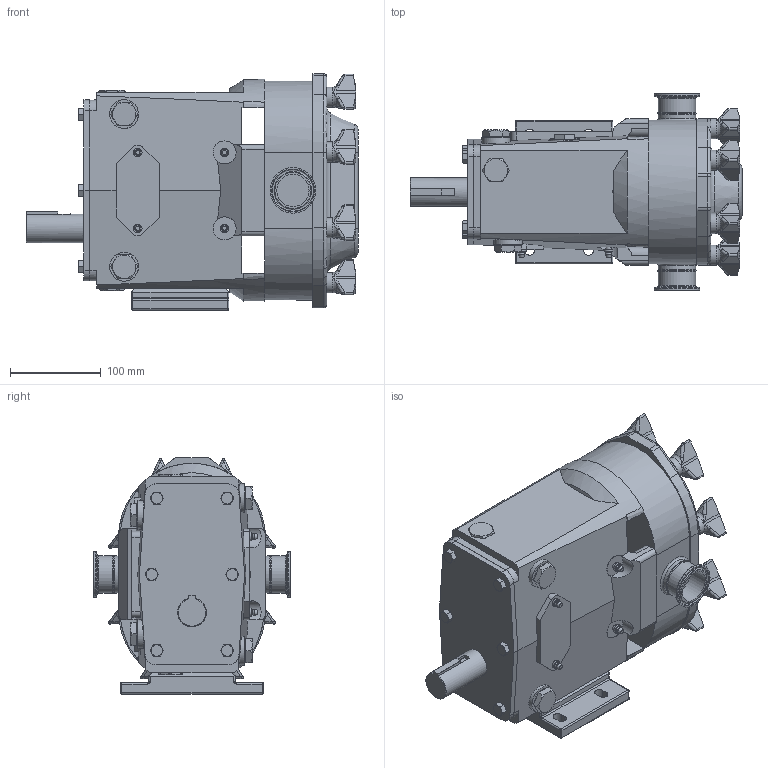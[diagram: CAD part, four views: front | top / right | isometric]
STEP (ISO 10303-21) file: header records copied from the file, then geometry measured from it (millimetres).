
FILE_DESCRIPTION(/* description */ (''),/* implementation_level */ '2;1');
FILE_NAME(/* name */ '030u1 lower shaft.stp',/* time_stamp */ '2024-10-02T13:34:35-05:00',/* author */ ('HWNME6'),/* organization */ (''),/* preprocessor_version */ 'ST-DEVELOPER v19.2',/* originating_system */ 'Autodesk Inventor 2023',/* authorisation */ '');
FILE_SCHEMA (('CONFIG_CONTROL_DESIGN'));
Products named in the file (1): 030u1 upper lower_Simplify_2
Bounding box: 366.78 x 217.17 x 261.05 mm (x, y, z)
Volume: 7951495.1 mm3; surface area: 397620.3 mm2
Topology: 1 solids, 1 shells, 1293 faces, 3268 edges, 1994 vertices
Faces by surface type: plane 675, bspline 281, cylinder 166, cone 113, torus 50, sphere 8
Full cylindrical faces by diameter (mm): 6.515 x2, 9.525 x4, 22.352 x8, 25.4 x2, 25.5 x4, 31.75 x5, 33.274 x2, 35.052 x2, 35.712 x2, 41.275 x4, 42.291 x2, 50.394 x2
Entity records: 47462 total; most frequent: CARTESIAN_POINT 19182, ORIENTED_EDGE 6376, DIRECTION 5057, EDGE_CURVE 3188, VERTEX_POINT 1994, LINE 1743, VECTOR 1743, AXIS2_PLACEMENT_3D 1657
